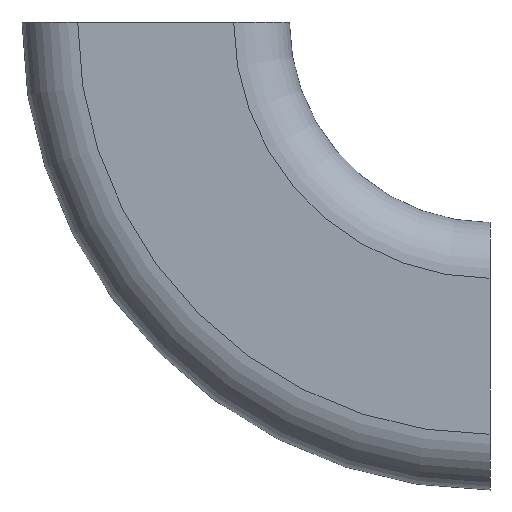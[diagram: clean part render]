
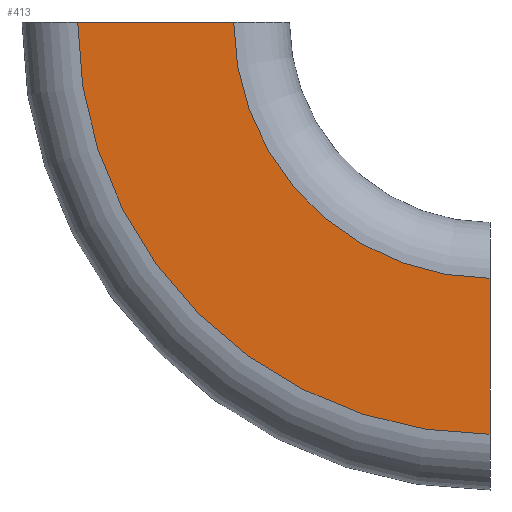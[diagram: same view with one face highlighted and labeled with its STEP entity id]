
A CAD part, left-side view. The second image highlights one B-rep face of the part: STEP entity #413.
In plain terms, the highlighted planar face has unit normal (-1, 0, 0).
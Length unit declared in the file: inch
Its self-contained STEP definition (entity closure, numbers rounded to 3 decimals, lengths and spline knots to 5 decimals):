
#345=CARTESIAN_POINT('',(-0.75,-1.875,-2.3125));
#346=VERTEX_POINT('',#345);
#354=CARTESIAN_POINT('',(-0.75,0.4375,0.0));
#355=VERTEX_POINT('',#354);
#356=CARTESIAN_POINT('',(-0.75,-1.875,0.0));
#357=DIRECTION('',(-1.0,0.0,0.0));
#358=DIRECTION('',(0.0,1.0,0.0));
#359=AXIS2_PLACEMENT_3D('',#356,#357,#358);
#360=CIRCLE('',#359,2.3125);
#361=EDGE_CURVE('',#355,#346,#360,.T.);
#382=CARTESIAN_POINT('',(-0.75,0.,0.0));
#383=DIRECTION('',(-1.0,0.0,0.0));
#384=DIRECTION('',(0.0,0.0,1.0));
#385=AXIS2_PLACEMENT_3D('',#382,#383,#384);
#386=PLANE('',#385);
#387=CARTESIAN_POINT('',(-0.75,-1.875,-1.4375));
#388=VERTEX_POINT('',#387);
#389=CARTESIAN_POINT('',(-0.75,-1.875,-2.3125));
#390=DIRECTION('',(0.0,0.0,1.0));
#391=VECTOR('',#390,0.875);
#392=LINE('',#389,#391);
#393=EDGE_CURVE('',#346,#388,#392,.T.);
#394=ORIENTED_EDGE('',*,*,#393,.T.);
#395=CARTESIAN_POINT('',(-0.75,-0.4375,0.0));
#396=VERTEX_POINT('',#395);
#397=CARTESIAN_POINT('',(-0.75,-1.875,0.0));
#398=DIRECTION('',(-1.0,0.0,0.0));
#399=DIRECTION('',(0.0,1.0,0.0));
#400=AXIS2_PLACEMENT_3D('',#397,#398,#399);
#401=CIRCLE('',#400,1.4375);
#402=EDGE_CURVE('',#396,#388,#401,.T.);
#403=ORIENTED_EDGE('',*,*,#402,.F.);
#404=CARTESIAN_POINT('',(-0.75,0.4375,0.0));
#405=DIRECTION('',(0.0,-1.0,0.0));
#406=VECTOR('',#405,0.875);
#407=LINE('',#404,#406);
#408=EDGE_CURVE('',#355,#396,#407,.T.);
#409=ORIENTED_EDGE('',*,*,#408,.F.);
#410=ORIENTED_EDGE('',*,*,#361,.T.);
#411=EDGE_LOOP('',(#394,#403,#409,#410));
#412=FACE_OUTER_BOUND('',#411,.T.);
#413=ADVANCED_FACE('',(#412),#386,.T.);
